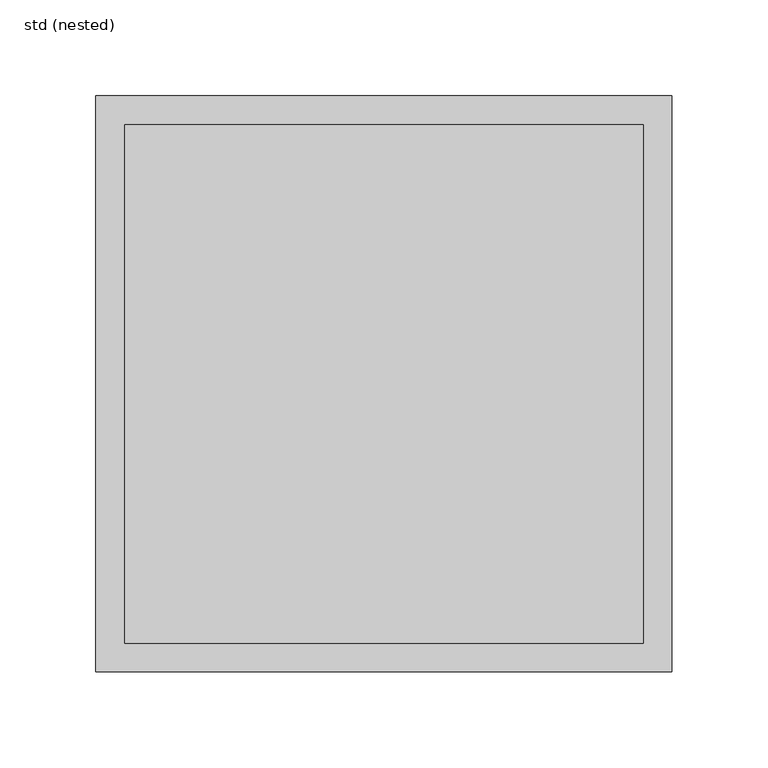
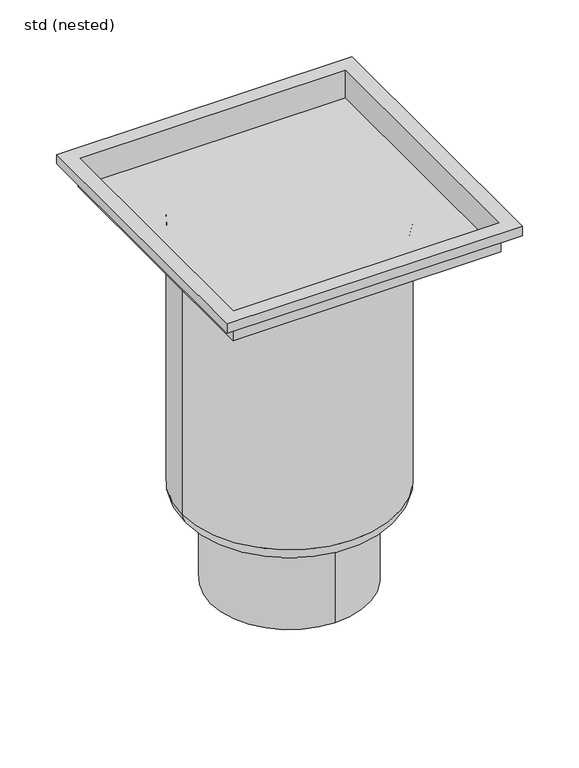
"""IFC4 building model written with IfcOpenShell, lengths in millimetres: sanitary terminal geometry, ZZZ_do not use_PF_ST_UN_extended fixed height hygienic gully W300_ACO : std (nested)."""

from ifc_helpers import new_model, si_unit, point, frame, origin, place, context, project, spatial, circle_curve, ellipse_curve, trimmed, source, transform, mapped, element, save
from ifc_brep_helpers import plane_surface, cylinder_surface, revolved_surface, advanced_brep


def std_nested_69cb9c66(model_context):
    return source(origin(), model_context, "Body", "AdvancedBrep", [
        advanced_brep(
        [(109.0, 0.0, -309.81), (-109.0, 0.0, -309.81), (-109.0, 0.0, -31.0), (109.0, 0.0, -31.0), (92.5, 0.0, -326.31), (-92.5, 0.0, -326.31), (80.0, 0.0, -326.31), (0.0, 80.0, -326.31), (-80.0, 0.0, -326.31), (0.0, -80.0, -326.31), (0.0, -80.0, -415.9), (0.0, 80.0, -415.9), (150.0, 150.0, -10.0), (150.0, -150.0, -10.0), (-150.0, -150.0, -10.0), (-150.0, 150.0, -10.0), (136.25, 136.25, -10.0), (-136.25, 136.25, -10.0), (-136.25, -136.25, -10.0), (136.25, -136.25, -10.0), (150.0, 150.0, 0.0), (-150.0, 150.0, 0.0), (-150.0, -150.0, 0.0), (150.0, -150.0, 0.0), (135.0, 135.0, 0.0), (135.0, -135.0, 0.0), (-135.0, -135.0, 0.0), (-135.0, 135.0, 0.0), (135.0, 135.0, -29.75), (135.0, -135.0, -29.75), (-135.0, -135.0, -29.75), (-135.0, 135.0, -29.75), (136.25, 136.25, -31.0), (136.25, -136.25, -31.0), (-136.25, -136.25, -31.0), (-136.25, 136.25, -31.0), (-136.25, 136.25, -29.75), (136.25, 136.25, -29.75), (-136.25, -136.25, -29.75), (136.25, -136.25, -29.75)],
        [
            (0, 1, circle_curve(frame((0.0, 0.0, -309.81), z_axis=(0.0, 0.0, 1.0), x_axis=(-1.0, 0.0, 0.0)), 109.0)),
            (1, 2),
            (2, 3, circle_curve(frame((0.0, 0.0, -31.0), z_axis=(0.0, 0.0, -1.0), x_axis=(-1.0, 0.0, 0.0)), 109.0)),
            (3, 0),
            (1, 0, circle_curve(frame((0.0, 0.0, -309.81), z_axis=(0.0, 0.0, 1.0), x_axis=(-1.0, 0.0, 0.0)), 109.0)),
            (3, 2, circle_curve(frame((0.0, 0.0, -31.0), z_axis=(0.0, 0.0, -1.0), x_axis=(-1.0, 0.0, 0.0)), 109.0)),
            (0, 4, circle_curve(frame((92.5, 0.0, -309.81), z_axis=(0.0, 1.0, 0.0), x_axis=(-1.0, 0.0, 0.0)), 16.5)),
            (4, 5, circle_curve(frame((0.0, 0.0, -326.31), z_axis=(0.0, 0.0, 1.0), x_axis=(-1.0, 0.0, 0.0)), 92.5)),
            (5, 1, circle_curve(frame((-92.5, 0.0, -309.81), z_axis=(0.0, 1.0, 0.0), x_axis=(1.0, 0.0, 0.0)), 16.5)),
            (5, 4, circle_curve(frame((0.0, 0.0, -326.31), z_axis=(0.0, 0.0, 1.0), x_axis=(-1.0, 0.0, 0.0)), 92.5)),
            (4, 6),
            (6, 7, circle_curve(frame((0.0, 0.0, -326.31), z_axis=(0.0, 0.0, 1.0), x_axis=(0.0, 1.0, 0.0)), 80.0)),
            (7, 8, circle_curve(frame((0.0, 0.0, -326.31), z_axis=(0.0, 0.0, 1.0), x_axis=(0.0, 1.0, 0.0)), 80.0)),
            (8, 5),
            (8, 9, circle_curve(frame((0.0, 0.0, -326.31), z_axis=(0.0, 0.0, 1.0), x_axis=(0.0, 1.0, 0.0)), 80.0)),
            (9, 6, circle_curve(frame((0.0, 0.0, -326.31), z_axis=(0.0, 0.0, 1.0), x_axis=(0.0, 1.0, 0.0)), 80.0)),
            (10, 11, circle_curve(frame((0.0, 0.0, -415.9), z_axis=(0.0, 0.0, -1.0), x_axis=(0.0, 1.0, 0.0)), 80.0)),
            (11, 10, circle_curve(frame((0.0, 0.0, -415.9), z_axis=(0.0, 0.0, -1.0), x_axis=(0.0, 1.0, 0.0)), 80.0)),
            (10, 9),
            (7, 11),
            (12, 13),
            (13, 14),
            (14, 15),
            (15, 12),
            (16, 17),
            (17, 18),
            (18, 19),
            (19, 16),
            (20, 21),
            (21, 22),
            (22, 23),
            (23, 20),
            (24, 25),
            (25, 26),
            (26, 27),
            (27, 24),
            (15, 21),
            (20, 12),
            (14, 22),
            (13, 23),
            (24, 28),
            (28, 29),
            (29, 25),
            (29, 30),
            (30, 26),
            (30, 31),
            (31, 27),
            (31, 28),
            (32, 33),
            (33, 34),
            (34, 35),
            (35, 32),
            (35, 36),
            (36, 17),
            (16, 37),
            (37, 32),
            (34, 38),
            (38, 18),
            (33, 39),
            (39, 19),
        ],
        [
            cylinder_surface(frame((0.0, 0.0, 60.0), z_axis=(0.0, 0.0, -1.0), x_axis=(-1.0, 0.0, 0.0)), 109.0),
            revolved_surface(trimmed(ellipse_curve(frame((-92.5, 0.0, -309.81), z_axis=(0.0, -1.0, 0.0), x_axis=(1.0, 0.0, 0.0)), 16.5, 16.5), [point((-109.0, 0.0, -309.81))], [point((-92.5, 0.0, -326.31))], True, "CARTESIAN"), (0.0, 0.0, 60.0), (0.0, 0.0, -1.0)),
            plane_surface(frame((0.0, 0.0, -326.31), z_axis=(0.0, 0.0, -1.0), x_axis=(-1.0, 0.0, 0.0))),
            plane_surface(frame((0.0, 80.0, -415.9), z_axis=(0.0, 0.0, -1.0), x_axis=(1.0, 0.0, 0.0))),
            cylinder_surface(frame((0.0, 0.0, -326.31), z_axis=(0.0, 0.0, -1.0), x_axis=(0.0, 1.0, 0.0)), 80.0),
            plane_surface(frame((-150.0, 150.0, -10.0), z_axis=(0.0, 0.0, -1.0), x_axis=(1.0, 0.0, 0.0))),
            plane_surface(frame((-150.0, 150.0, 0.0), z_axis=(0.0, 0.0, 1.0), x_axis=(-1.0, 0.0, 0.0))),
            plane_surface(frame((150.0, 150.0, 0.0), z_axis=(0.0, 1.0, 0.0), x_axis=(0.0, 0.0, -1.0))),
            plane_surface(frame((-150.0, 150.0, 0.0), z_axis=(-1.0, 0.0, 0.0), x_axis=(0.0, 0.0, -1.0))),
            plane_surface(frame((-150.0, -150.0, 0.0), z_axis=(0.0, -1.0, 0.0), x_axis=(0.0, 0.0, -1.0))),
            plane_surface(frame((150.0, -150.0, 0.0), z_axis=(1.0, 0.0, 0.0), x_axis=(0.0, 0.0, -1.0))),
            plane_surface(frame((135.0, 135.0, 0.0), z_axis=(-1.0, 0.0, 0.0), x_axis=(0.0, 0.0, -1.0))),
            plane_surface(frame((135.0, -135.0, 0.0), z_axis=(0.0, 1.0, 0.0), x_axis=(0.0, 0.0, -1.0))),
            plane_surface(frame((-135.0, -135.0, 0.0), z_axis=(1.0, 0.0, 0.0), x_axis=(0.0, 0.0, -1.0))),
            plane_surface(frame((-135.0, 135.0, 0.0), z_axis=(0.0, -1.0, 0.0), x_axis=(0.0, 0.0, -1.0))),
            plane_surface(frame((-136.25, 136.25, -31.0), z_axis=(0.0, 0.0, -1.0), x_axis=(1.0, 0.0, 0.0))),
            plane_surface(frame((136.25, 136.25, -10.0), z_axis=(0.0, 1.0, 0.0), x_axis=(0.0, 0.0, -1.0))),
            plane_surface(frame((-136.25, 136.25, -10.0), z_axis=(-1.0, 0.0, 0.0), x_axis=(0.0, 0.0, -1.0))),
            plane_surface(frame((-136.25, -136.25, -10.0), z_axis=(0.0, -1.0, 0.0), x_axis=(0.0, 0.0, -1.0))),
            plane_surface(frame((136.25, -136.25, -10.0), z_axis=(1.0, 0.0, 0.0), x_axis=(0.0, 0.0, -1.0))),
            plane_surface(frame((-136.25, 136.25, -29.75), z_axis=(0.0, 0.0, 1.0), x_axis=(-1.0, 0.0, 0.0))),
        ],
        [
            (0, [[1, 2, 3, 4]]),
            (0, [[-2, 5, -4, 6]]),
            (1, [[-1, 7, 8, 9]]),
            (1, [[-5, -9, 10, -7]]),
            (2, [[-8, 11, 12, 13, 14]]),
            (2, [[-10, -14, 15, 16, -11]]),
            (3, [[17, 18]]),
            (4, [[-17, 19, -15, -13, 20]]),
            (4, [[-18, -20, -12, -16, -19]]),
            (5, [[21, 22, 23, 24], [25, 26, 27, 28]]),
            (6, [[29, 30, 31, 32], [33, 34, 35, 36]]),
            (7, [[-24, 37, -29, 38]]),
            (8, [[-23, 39, -30, -37]]),
            (9, [[-22, 40, -31, -39]]),
            (10, [[-21, -38, -32, -40]]),
            (11, [[-33, 41, 42, 43]]),
            (12, [[-34, -43, 44, 45]]),
            (13, [[-35, -45, 46, 47]]),
            (14, [[-36, -47, 48, -41]]),
            (15, [[49, 50, 51, 52], [-3, -6]]),
            (16, [[-52, 53, 54, -25, 55, 56]]),
            (17, [[-51, 57, 58, -26, -54, -53]]),
            (18, [[-50, 59, 60, -27, -58, -57]]),
            (19, [[-49, -56, -55, -28, -60, -59]]),
            (20, [[-42, -48, -46, -44]]),
        ],
    ),
    ])


if __name__ == "__main__":
    model = new_model("IFC4")
    model_context = context("Model", 3, world=origin())
    ifc_project = project(units=[si_unit("LENGTHUNIT", "METRE", prefix="MILLI")], contexts=[model_context])
    site = spatial("IfcSite", under=ifc_project)
    building = spatial("IfcBuilding", under=site)
    placement = place(None, origin())
    std_nested_shape = std_nested_69cb9c66(model_context)
    element("IfcSanitaryTerminal", 1, ObjectType="ZZZ_do not use_PF_ST_UN_extended fixed height hygienic gully W300_ACO : std (nested)", at=placement, inside=building, context=model_context, shape_type="MappedRepresentation", body=[
        mapped(std_nested_shape, transform((0.0, 0.0, 0.0), x_axis=(1.0, 0.0, 0.0), y_axis=(0.0, 1.0, 0.0), z_axis=(0.0, 0.0, 1.0))),
    ])
    save(model, "model.ifc")
